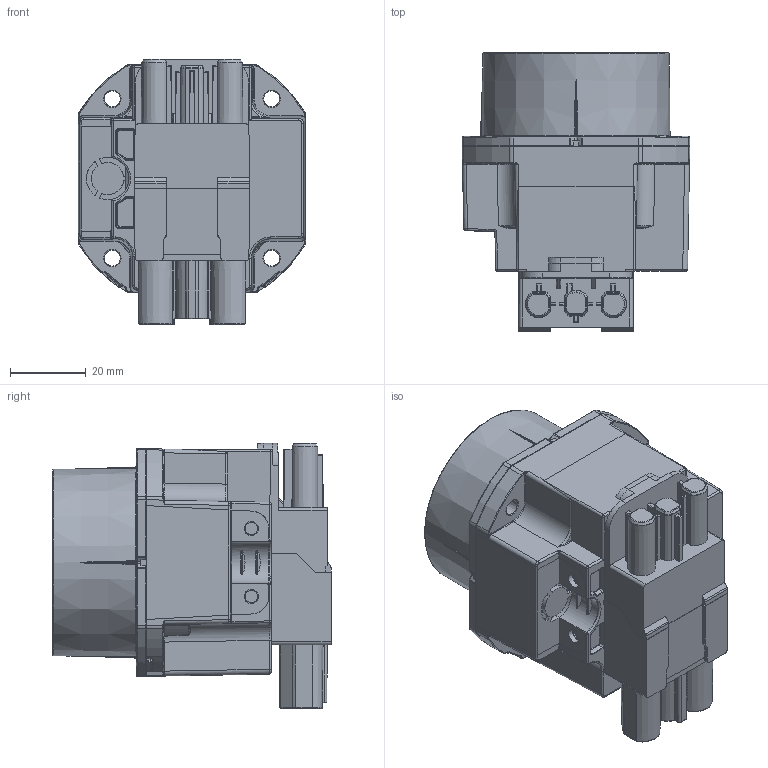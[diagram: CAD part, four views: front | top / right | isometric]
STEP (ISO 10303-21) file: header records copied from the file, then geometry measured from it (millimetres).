
FILE_DESCRIPTION((''),'2;1');
FILE_NAME('P:\Manufacturing\Autocad drawings\Inventor\blocks\Pop - Blocks\Pop 1001.stp','2019-04-03T14:59:40',('jasonproctor'),(''),'Autodesk Inventor 2012','Autodesk Inventor 2012','');
FILE_SCHEMA(('AUTOMOTIVE_DESIGN { 1 0 10303 214 1 1 1 1 }'));
Length unit declared in the file: millimetre
Products named in the file (1): Part8
Bounding box: 60 x 73.3 x 69.9 mm (x, y, z)
Volume: 124835.5 mm3; surface area: 41028.3 mm2
Topology: 1 solids, 11 shells, 4731 faces, 13051 edges, 8269 vertices
Faces by surface type: plane 2433, cylinder 1407, bspline 539, torus 182, cone 102, sphere 68
Full cylindrical faces by diameter (mm): 0.5 x1, 0.7 x2, 0.8 x2, 1.2 x4, 4.174 x4, 5.106 x2, 5.5 x2, 6.6 x2, 41 x1, 42.6 x1, 44 x1, 44.217 x1
Entity records: 168443 total; most frequent: CARTESIAN_POINT 45862, ORIENTED_EDGE 25840, DIRECTION 24199, EDGE_CURVE 12920, VECTOR 8269, LINE 8269, VERTEX_POINT 8248, AXIS2_PLACEMENT_3D 7965
